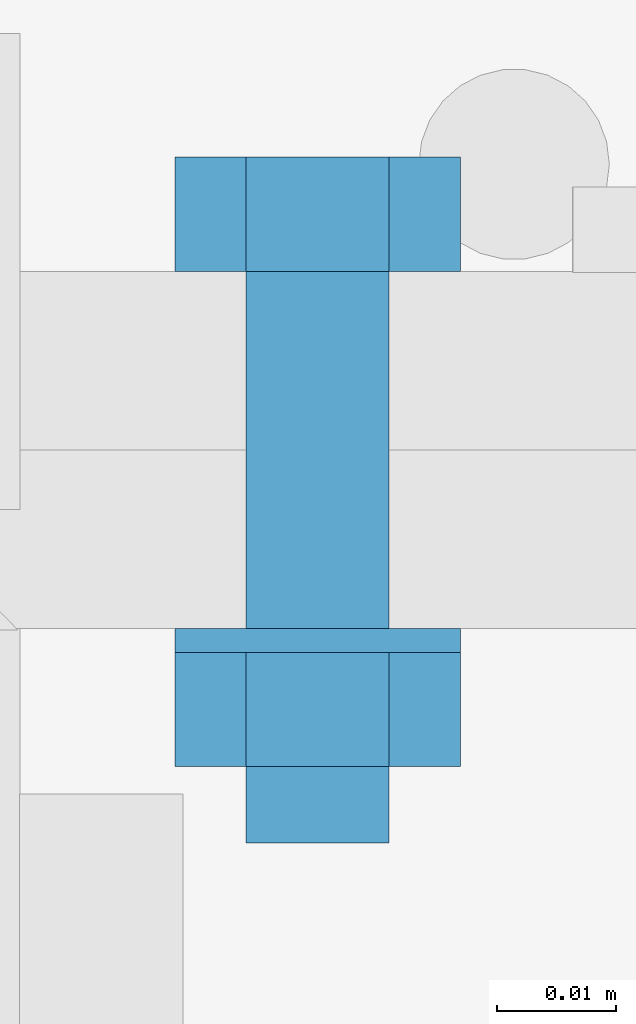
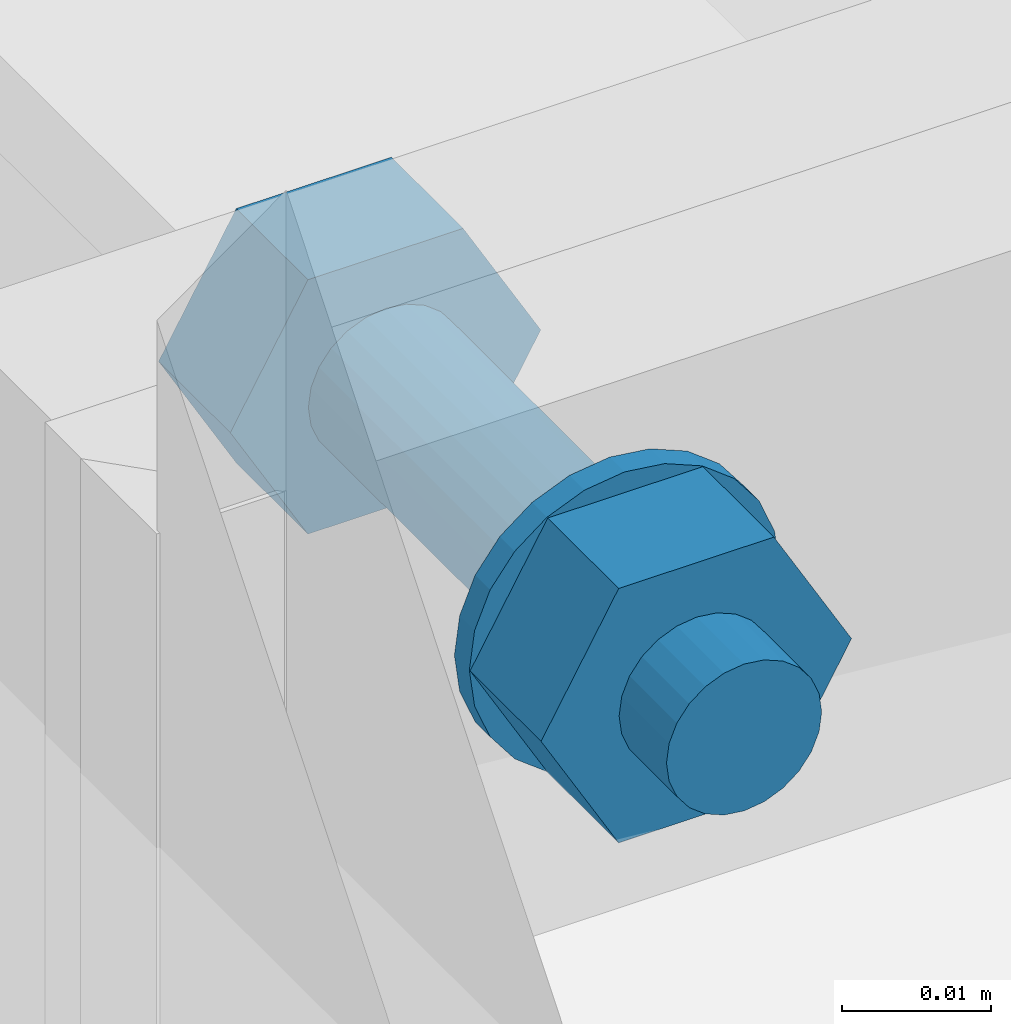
# One storey, part 185 of 251: 4 mechanical fasteners.
"""IFC4 building model written with IfcOpenShell, lengths in metres."""

from ifc_helpers import new_model, si_unit, frame, origin_with_axes, place, context, project, spatial, polyline, outline, extrude, type_object, element, save


model = new_model("IFC4")

# Units and contexts
model_context = context("Model", 3, precision=1e-05, world=origin_with_axes())
ifc_project = project(units=[si_unit("LENGTHUNIT", "METRE"), si_unit("AREAUNIT", "SQUARE_METRE"), si_unit("VOLUMEUNIT", "CUBIC_METRE"), si_unit("MASSUNIT", "GRAM", prefix="KILO"), si_unit("TIMEUNIT", "SECOND"), si_unit("PLANEANGLEUNIT", "RADIAN"), si_unit("SOLIDANGLEUNIT", "STERADIAN"), si_unit("THERMODYNAMICTEMPERATUREUNIT", "DEGREE_CELSIUS")], contexts=[model_context])

# Site, building, storey
placement_1 = place(None, origin_with_axes())
site = spatial("IfcSite", under=ifc_project, at=placement_1, Name="Italia", CompositionType="ELEMENT")
building = spatial("IfcBuilding", under=site, at=placement_1, Name="Deposito", CompositionType="ELEMENT")
storey = spatial("IfcBuildingStorey", under=building, at=placement_1, Name="Storey 0", CompositionType="ELEMENT", Elevation=0.0)

# Mechanical fasteners
mechanical_fastener_type_1 = type_object("IfcMechanicalFastenerType", Name="Collegamenti -064_-065 -065_-064 -065_-066 -066_-065 -066_-067 -067_-066 -067_-068 -068_-067", PredefinedType="BOLT")
placement_2 = place(placement_1, origin_with_axes())
mechanical_fastener_1_placement = place(placement_2, origin_with_axes())
element("IfcMechanicalFastener", 1, at=mechanical_fastener_1_placement, inside=storey, type_object=mechanical_fastener_type_1, Name="Collegamenti -064_-065 -065_-064 -065_-066 -066_-065 -066_-067 -067_-066 -067_-068 -068_-067", NominalDiameter=0.0119991, context=model_context, shape_type="SweptSolid", body=[
    extrude(outline(polyline([(0.0, 0.0), (-0.0119991, 0.0), (-0.0179996, 0.0103922), (-0.0119991, 0.0207849), (0.0, 0.0207849), (0.00600052, 0.0103922), (0.0, 0.0)])), frame((19.934, 15.13, 5.90461), z_axis=(0.0, 1.0, 0.0), x_axis=(-1.0, 0.0, 0.0)), (0.0, 0.0, 1.0), 0.00959969),
])
mechanical_fastener_type_2 = type_object("IfcMechanicalFastenerType", Name="Collegamenti -064_-065 -065_-064 -065_-066 -066_-065 -066_-067 -067_-066 -067_-068 -068_-067", PredefinedType="BOLT")
mechanical_fastener_2_placement = place(placement_2, origin_with_axes())
element("IfcMechanicalFastener", 2, at=mechanical_fastener_2_placement, inside=storey, type_object=mechanical_fastener_type_2, Name="Collegamenti -064_-065 -065_-064 -065_-066 -066_-065 -066_-067 -067_-066 -067_-068 -068_-067", NominalDiameter=0.012, context=model_context, shape_type="SweptSolid", body=[
    extrude(outline(polyline([(0.0, 0.0), (-0.000204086, -0.00155306), (-0.000804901, -0.00299978), (-0.00175858, -0.00424242), (-0.00300026, -0.00519609), (-0.00444794, -0.00579548), (-0.00600052, -0.00600004), (-0.0075531, -0.00579548), (-0.00900078, -0.00519609), (-0.0102425, -0.00424242), (-0.0111961, -0.00299978), (-0.011797, -0.00155306), (-0.012001, 0.0), (-0.011797, 0.00155306), (-0.0111961, 0.00299978), (-0.0102425, 0.00424242), (-0.00900078, 0.00519609), (-0.0075531, 0.00579548), (-0.00600052, 0.00600004), (-0.00444794, 0.00579548), (-0.00300026, 0.00519609), (-0.00175858, 0.00424242), (-0.000804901, 0.00299978), (-0.000204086, 0.00155306), (0.0, 0.0)])), frame((19.934, 15.082, 5.915), z_axis=(0.0, 1.0, 0.0), x_axis=(-1.0, 0.0, 0.0)), (0.0, 0.0, 1.0), 0.0480003),
])
mechanical_fastener_type_3 = type_object("IfcMechanicalFastenerType", Name="Collegamenti -064_-065 -065_-064 -065_-066 -066_-065 -066_-067 -067_-066 -067_-068 -068_-067", PredefinedType="BOLT")
mechanical_fastener_3_placement = place(placement_2, origin_with_axes())
element("IfcMechanicalFastener", 3, at=mechanical_fastener_3_placement, inside=storey, type_object=mechanical_fastener_type_3, Name="Collegamenti -064_-065 -065_-064 -065_-066 -066_-065 -066_-067 -067_-066 -067_-068 -068_-067", NominalDiameter=0.0119991, context=model_context, shape_type="SweptSolid", body=[
    extrude(outline(polyline([(0.0, 0.0), (-0.0119991, 0.0), (-0.0179996, 0.0103922), (-0.0119991, 0.0207849), (0.0, 0.0207849), (0.00600052, 0.0103922), (0.0, 0.0)])), frame((19.934, 15.0884, 5.90461), z_axis=(0.0, 1.0, 0.0), x_axis=(-1.0, 0.0, 0.0)), (0.0, 0.0, 1.0), 0.00959969),
])
mechanical_fastener_type_4 = type_object("IfcMechanicalFastenerType", Name="Collegamenti -064_-065 -065_-064 -065_-066 -066_-065 -066_-067 -067_-066 -067_-068 -068_-067", PredefinedType="BOLT")
mechanical_fastener_4_placement = place(placement_2, origin_with_axes())
element("IfcMechanicalFastener", 4, at=mechanical_fastener_4_placement, inside=storey, type_object=mechanical_fastener_type_4, Name="Collegamenti -064_-065 -065_-064 -065_-066 -066_-065 -066_-067 -067_-066 -067_-068 -068_-067", NominalDiameter=0.024, context=model_context, shape_type="SweptSolid", body=[
    extrude(outline(polyline([(0.0, 0.0), (-0.000408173, -0.00310564), (-0.00160599, -0.00600004), (-0.00351334, -0.00848532), (-0.00599861, -0.0103922), (-0.00889397, -0.011591), (-0.0119991, -0.0120001), (-0.0151043, -0.011591), (-0.0179996, -0.0103922), (-0.0204849, -0.00848532), (-0.0223923, -0.00600004), (-0.0235901, -0.00310564), (-0.0239983, 0.0), (-0.0235901, 0.00310564), (-0.0223923, 0.00600004), (-0.0204849, 0.00848532), (-0.0179996, 0.0103922), (-0.0151043, 0.011591), (-0.0119991, 0.0120001), (-0.00889397, 0.011591), (-0.00599861, 0.0103922), (-0.00351334, 0.00848532), (-0.00160599, 0.00600004), (-0.000408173, 0.00310564), (0.0, 0.0)])), frame((19.928, 15.098, 5.915), z_axis=(0.0, 1.0, 0.0), x_axis=(-1.0, 0.0, 0.0)), (0.0, 0.0, 1.0), 0.00200081),
])

save(model, "model.ifc")
